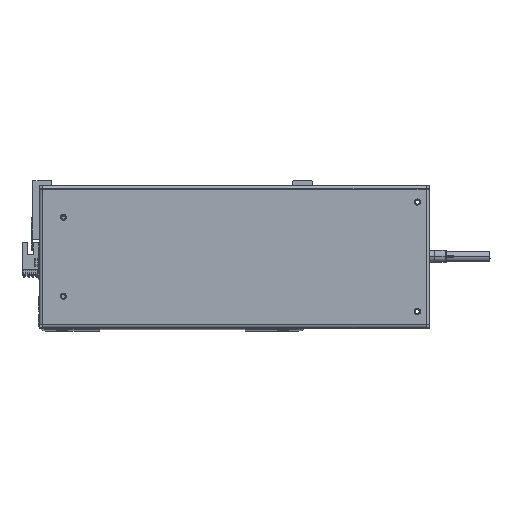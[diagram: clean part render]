
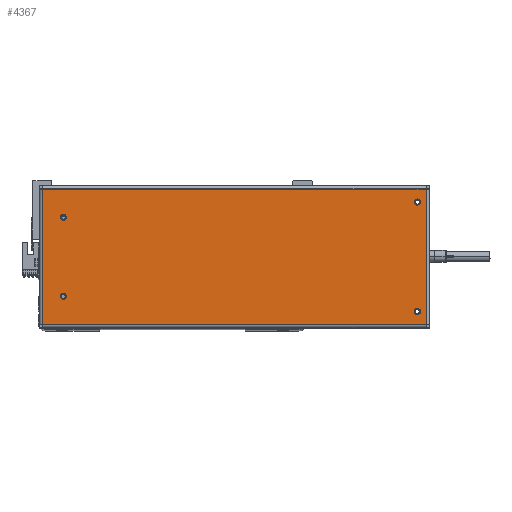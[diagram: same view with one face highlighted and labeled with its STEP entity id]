
A CAD part, top view. The second image highlights one B-rep face of the part: STEP entity #4367.
In plain terms, the highlighted planar face has unit normal (0, 0, 1).
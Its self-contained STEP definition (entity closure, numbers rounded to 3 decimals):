
#65 = DIRECTION ( 'NONE',  ( 0., 0., 1. ) ) ;
#412 = CIRCLE ( 'NONE', #7674, 2.5 ) ;
#646 = EDGE_LOOP ( 'NONE', ( #18092, #32284 ) ) ;
#687 = DIRECTION ( 'NONE',  ( 0., 0., 1. ) ) ;
#735 = CARTESIAN_POINT ( 'NONE',  ( 157.6, 55.6, 0. ) ) ;
#900 = AXIS2_PLACEMENT_3D ( 'NONE', #990, #19269, #12815 ) ;
#990 = CARTESIAN_POINT ( 'NONE',  ( 150.5, 45., 0. ) ) ;
#1094 = EDGE_LOOP ( 'NONE', ( #4177, #2582 ) ) ;
#1096 = CIRCLE ( 'NONE', #7831, 2.5 ) ;
#1176 = LINE ( 'NONE', #19598, #4496 ) ;
#1274 = CARTESIAN_POINT ( 'NONE',  ( -143., -32.5, 0. ) ) ;
#1374 = VECTOR ( 'NONE', #3046, 1000. ) ;
#1655 = CARTESIAN_POINT ( 'NONE',  ( -138., 32.5, 0. ) ) ;
#1787 = DIRECTION ( 'NONE',  ( 0., 0., 1. ) ) ;
#2234 = DIRECTION ( 'NONE',  ( -1., 0., 0. ) ) ;
#2246 = EDGE_CURVE ( 'NONE', #10781, #34271, #25433, .T. ) ;
#2307 = VECTOR ( 'NONE', #4470, 1000. ) ;
#2582 = ORIENTED_EDGE ( 'NONE', *, *, #3747, .F. ) ;
#3015 = CARTESIAN_POINT ( 'NONE',  ( -157.6, -55.6, 0. ) ) ;
#3046 = DIRECTION ( 'NONE',  ( -1., 0., 0. ) ) ;
#3152 = CIRCLE ( 'NONE', #14337, 2.5 ) ;
#3426 = DIRECTION ( 'NONE',  ( 0., 0., 1. ) ) ;
#3747 = EDGE_CURVE ( 'NONE', #29200, #28883, #1096, .T. ) ;
#3753 = VERTEX_POINT ( 'NONE', #16201 ) ;
#3808 = CARTESIAN_POINT ( 'NONE',  ( 148., -45., 0. ) ) ;
#3862 = CARTESIAN_POINT ( 'NONE',  ( 157.6, -55.6, 0. ) ) ;
#4177 = ORIENTED_EDGE ( 'NONE', *, *, #23845, .F. ) ;
#4367 = ADVANCED_FACE ( 'NONE', ( #5338, #20974, #6297, #37652, #15305 ), #20489, .F. ) ;
#4470 = DIRECTION ( 'NONE',  ( 1., 0., 0. ) ) ;
#4496 = VECTOR ( 'NONE', #19723, 1000. ) ;
#5157 = CIRCLE ( 'NONE', #14348, 2.5 ) ;
#5338 = FACE_BOUND ( 'NONE', #1094, .T. ) ;
#6297 = FACE_BOUND ( 'NONE', #28248, .T. ) ;
#6319 = CARTESIAN_POINT ( 'NONE',  ( -140.5, 32.5, 0. ) ) ;
#6859 = DIRECTION ( 'NONE',  ( 1., 0., 0. ) ) ;
#6866 = CARTESIAN_POINT ( 'NONE',  ( 150.5, -45., 0. ) ) ;
#7674 = AXIS2_PLACEMENT_3D ( 'NONE', #22329, #36998, #6859 ) ;
#7831 = AXIS2_PLACEMENT_3D ( 'NONE', #31242, #687, #13540 ) ;
#8065 = CARTESIAN_POINT ( 'NONE',  ( 157.7, 58.5, 0. ) ) ;
#8601 = CARTESIAN_POINT ( 'NONE',  ( -143., 32.5, 0. ) ) ;
#8655 = LINE ( 'NONE', #3862, #39091 ) ;
#9400 = LINE ( 'NONE', #10311, #2307 ) ;
#9680 = EDGE_CURVE ( 'NONE', #32806, #35104, #5157, .T. ) ;
#10311 = CARTESIAN_POINT ( 'NONE',  ( -157.7, -55.6, 0. ) ) ;
#10781 = VERTEX_POINT ( 'NONE', #18194 ) ;
#11281 = ORIENTED_EDGE ( 'NONE', *, *, #2246, .F. ) ;
#12149 = DIRECTION ( 'NONE',  ( 1., 0., 0. ) ) ;
#12815 = DIRECTION ( 'NONE',  ( 1., 0., 0. ) ) ;
#13540 = DIRECTION ( 'NONE',  ( 1., 0., 0. ) ) ;
#13686 = EDGE_CURVE ( 'NONE', #27988, #3753, #32352, .T. ) ;
#13894 = VERTEX_POINT ( 'NONE', #38357 ) ;
#14257 = DIRECTION ( 'NONE',  ( 1., 0., 0. ) ) ;
#14337 = AXIS2_PLACEMENT_3D ( 'NONE', #30621, #36724, #15843 ) ;
#14348 = AXIS2_PLACEMENT_3D ( 'NONE', #6866, #31036, #27798 ) ;
#14404 = CARTESIAN_POINT ( 'NONE',  ( 148., 45., 0. ) ) ;
#15305 = FACE_OUTER_BOUND ( 'NONE', #28375, .T. ) ;
#15537 = ORIENTED_EDGE ( 'NONE', *, *, #31300, .T. ) ;
#15558 = AXIS2_PLACEMENT_3D ( 'NONE', #6319, #65, #12149 ) ;
#15843 = DIRECTION ( 'NONE',  ( 1., 0., 0. ) ) ;
#16201 = CARTESIAN_POINT ( 'NONE',  ( -157.6, 55.6, 0. ) ) ;
#17041 = EDGE_CURVE ( 'NONE', #35104, #32806, #412, .T. ) ;
#18092 = ORIENTED_EDGE ( 'NONE', *, *, #30298, .F. ) ;
#18194 = CARTESIAN_POINT ( 'NONE',  ( 153., 45., 0. ) ) ;
#19269 = DIRECTION ( 'NONE',  ( 0., 0., 1. ) ) ;
#19469 = CARTESIAN_POINT ( 'NONE',  ( 153., -45., 0. ) ) ;
#19598 = CARTESIAN_POINT ( 'NONE',  ( -157.6, 55.6, 0. ) ) ;
#19723 = DIRECTION ( 'NONE',  ( 0., -1., 0. ) ) ;
#20489 = PLANE ( 'NONE',  #33550 ) ;
#20974 = FACE_BOUND ( 'NONE', #646, .T. ) ;
#21073 = AXIS2_PLACEMENT_3D ( 'NONE', #26466, #1787, #14257 ) ;
#21561 = CARTESIAN_POINT ( 'NONE',  ( -140.5, -32.5, 0. ) ) ;
#22237 = ORIENTED_EDGE ( 'NONE', *, *, #33650, .T. ) ;
#22329 = CARTESIAN_POINT ( 'NONE',  ( 150.5, -45., 0. ) ) ;
#23249 = ORIENTED_EDGE ( 'NONE', *, *, #28598, .T. ) ;
#23845 = EDGE_CURVE ( 'NONE', #28883, #29200, #24351, .T. ) ;
#24351 = CIRCLE ( 'NONE', #30775, 2.5 ) ;
#24918 = EDGE_CURVE ( 'NONE', #25934, #34139, #36658, .T. ) ;
#25433 = CIRCLE ( 'NONE', #900, 2.5 ) ;
#25934 = VERTEX_POINT ( 'NONE', #8601 ) ;
#26271 = ORIENTED_EDGE ( 'NONE', *, *, #32335, .F. ) ;
#26466 = CARTESIAN_POINT ( 'NONE',  ( -140.5, 32.5, 0. ) ) ;
#27798 = DIRECTION ( 'NONE',  ( 1., 0., 0. ) ) ;
#27988 = VERTEX_POINT ( 'NONE', #735 ) ;
#28248 = EDGE_LOOP ( 'NONE', ( #37043, #31314 ) ) ;
#28375 = EDGE_LOOP ( 'NONE', ( #22237, #15537, #23249, #36258 ) ) ;
#28598 = EDGE_CURVE ( 'NONE', #13894, #27988, #8655, .T. ) ;
#28883 = VERTEX_POINT ( 'NONE', #32677 ) ;
#29200 = VERTEX_POINT ( 'NONE', #1274 ) ;
#29429 = DIRECTION ( 'NONE',  ( 0., 0., -1. ) ) ;
#30298 = EDGE_CURVE ( 'NONE', #34139, #25934, #30872, .T. ) ;
#30621 = CARTESIAN_POINT ( 'NONE',  ( 150.5, 45., 0. ) ) ;
#30775 = AXIS2_PLACEMENT_3D ( 'NONE', #21561, #3426, #36995 ) ;
#30872 = CIRCLE ( 'NONE', #15558, 2.5 ) ;
#31036 = DIRECTION ( 'NONE',  ( 0., 0., 1. ) ) ;
#31242 = CARTESIAN_POINT ( 'NONE',  ( -140.5, -32.5, 0. ) ) ;
#31300 = EDGE_CURVE ( 'NONE', #32211, #13894, #9400, .T. ) ;
#31314 = ORIENTED_EDGE ( 'NONE', *, *, #17041, .F. ) ;
#32211 = VERTEX_POINT ( 'NONE', #3015 ) ;
#32284 = ORIENTED_EDGE ( 'NONE', *, *, #24918, .F. ) ;
#32335 = EDGE_CURVE ( 'NONE', #34271, #10781, #3152, .T. ) ;
#32352 = LINE ( 'NONE', #33307, #1374 ) ;
#32677 = CARTESIAN_POINT ( 'NONE',  ( -138., -32.5, 0. ) ) ;
#32806 = VERTEX_POINT ( 'NONE', #19469 ) ;
#33307 = CARTESIAN_POINT ( 'NONE',  ( 157.7, 55.6, 0. ) ) ;
#33550 = AXIS2_PLACEMENT_3D ( 'NONE', #8065, #29429, #2234 ) ;
#33650 = EDGE_CURVE ( 'NONE', #3753, #32211, #1176, .T. ) ;
#34139 = VERTEX_POINT ( 'NONE', #1655 ) ;
#34265 = DIRECTION ( 'NONE',  ( 0., 1., 0. ) ) ;
#34271 = VERTEX_POINT ( 'NONE', #14404 ) ;
#35104 = VERTEX_POINT ( 'NONE', #3808 ) ;
#35517 = EDGE_LOOP ( 'NONE', ( #11281, #26271 ) ) ;
#36258 = ORIENTED_EDGE ( 'NONE', *, *, #13686, .T. ) ;
#36658 = CIRCLE ( 'NONE', #21073, 2.5 ) ;
#36724 = DIRECTION ( 'NONE',  ( 0., 0., 1. ) ) ;
#36995 = DIRECTION ( 'NONE',  ( 1., 0., 0. ) ) ;
#36998 = DIRECTION ( 'NONE',  ( 0., 0., 1. ) ) ;
#37043 = ORIENTED_EDGE ( 'NONE', *, *, #9680, .F. ) ;
#37652 = FACE_BOUND ( 'NONE', #35517, .T. ) ;
#38357 = CARTESIAN_POINT ( 'NONE',  ( 157.6, -55.6, 0. ) ) ;
#39091 = VECTOR ( 'NONE', #34265, 1000. ) ;
